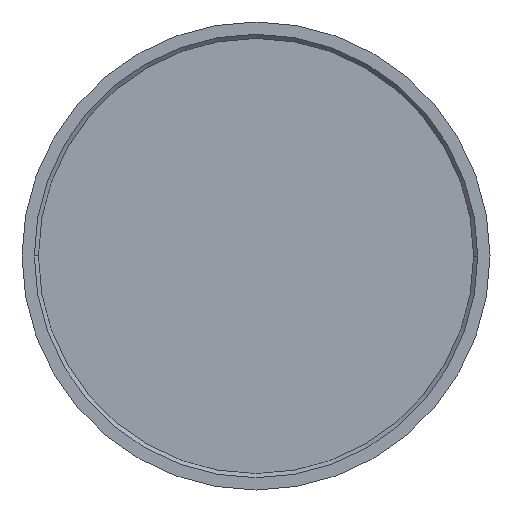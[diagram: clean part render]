
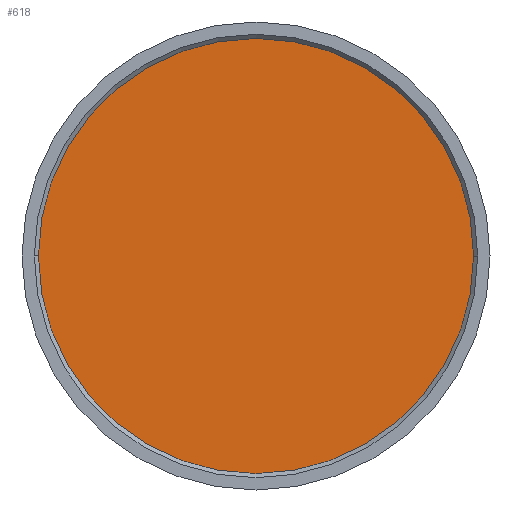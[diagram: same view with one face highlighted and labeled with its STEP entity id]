
A CAD part, left-side view. The second image highlights one B-rep face of the part: STEP entity #618.
In plain terms, the highlighted planar face has unit normal (-1, 0, 0).
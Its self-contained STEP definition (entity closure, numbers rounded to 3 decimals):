
#90 = EDGE_CURVE ( 'NONE', #350, #175, #193, .T. ) ;
#175 = VERTEX_POINT ( 'NONE', #234 ) ;
#193 = CIRCLE ( 'NONE', #535, 13.5 ) ;
#218 = FACE_OUTER_BOUND ( 'NONE', #623, .T. ) ;
#234 = CARTESIAN_POINT ( 'NONE',  ( -4., -13.5, 0. ) ) ;
#240 = AXIS2_PLACEMENT_3D ( 'NONE', #294, #327, #340 ) ;
#258 = AXIS2_PLACEMENT_3D ( 'NONE', #686, #640, #297 ) ;
#294 = CARTESIAN_POINT ( 'NONE',  ( -4., 0., 0. ) ) ;
#297 = DIRECTION ( 'NONE',  ( 0., 1., 0. ) ) ;
#327 = DIRECTION ( 'NONE',  ( -1., 0., 0. ) ) ;
#337 = CARTESIAN_POINT ( 'NONE',  ( -4., 0., 0. ) ) ;
#340 = DIRECTION ( 'NONE',  ( 0., -1., 0. ) ) ;
#350 = VERTEX_POINT ( 'NONE', #661 ) ;
#433 = PLANE ( 'NONE',  #240 ) ;
#453 = ORIENTED_EDGE ( 'NONE', *, *, #577, .F. ) ;
#511 = DIRECTION ( 'NONE',  ( 0., 1., 0. ) ) ;
#535 = AXIS2_PLACEMENT_3D ( 'NONE', #337, #561, #511 ) ;
#561 = DIRECTION ( 'NONE',  ( 1., 0., 0. ) ) ;
#577 = EDGE_CURVE ( 'NONE', #175, #350, #654, .T. ) ;
#591 = ORIENTED_EDGE ( 'NONE', *, *, #90, .F. ) ;
#618 = ADVANCED_FACE ( 'NONE', ( #218 ), #433, .T. ) ;
#623 = EDGE_LOOP ( 'NONE', ( #591, #453 ) ) ;
#640 = DIRECTION ( 'NONE',  ( 1., 0., 0. ) ) ;
#654 = CIRCLE ( 'NONE', #258, 13.5 ) ;
#661 = CARTESIAN_POINT ( 'NONE',  ( -4., 13.5, 0. ) ) ;
#686 = CARTESIAN_POINT ( 'NONE',  ( -4., 0., 0. ) ) ;
